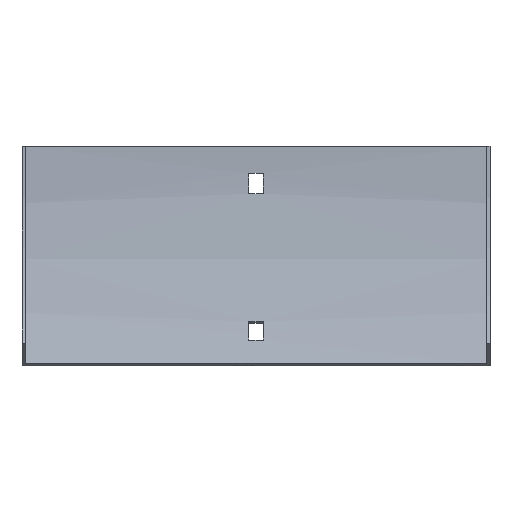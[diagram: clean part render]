
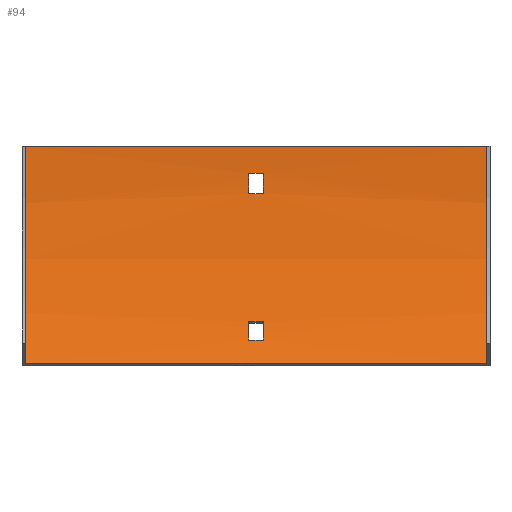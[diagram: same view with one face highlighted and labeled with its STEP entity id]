
A CAD part, front view. The second image highlights one B-rep face of the part: STEP entity #94.
In plain terms, the highlighted cylindrical face has radius 192.5 mm (diameter 385 mm), a partial arc.
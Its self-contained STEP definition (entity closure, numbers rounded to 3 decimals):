
#2 = ORIENTED_EDGE ( 'NONE', *, *, #241, .F. ) ;
#9 = CARTESIAN_POINT ( 'NONE',  ( -3.25, -21.614, -85.671 ) ) ;
#13 = AXIS2_PLACEMENT_3D ( 'NONE', #129, #88, #217 ) ;
#17 = DIRECTION ( 'NONE',  ( -1., 0., 0. ) ) ;
#22 = CARTESIAN_POINT ( 'NONE',  ( 3.25, -194., 0. ) ) ;
#33 = VERTEX_POINT ( 'NONE', #528 ) ;
#35 = LINE ( 'NONE', #406, #438 ) ;
#38 = ORIENTED_EDGE ( 'NONE', *, *, #370, .F. ) ;
#44 = CARTESIAN_POINT ( 'NONE',  ( -3.25, -194., 0. ) ) ;
#63 = CARTESIAN_POINT ( 'NONE',  ( -102., -194., 0. ) ) ;
#69 = FACE_BOUND ( 'NONE', #489, .T. ) ;
#70 = CARTESIAN_POINT ( 'NONE',  ( 3.25, -2.649, -21. ) ) ;
#72 = EDGE_CURVE ( 'NONE', #539, #465, #150, .T. ) ;
#79 = ORIENTED_EDGE ( 'NONE', *, *, #142, .F. ) ;
#86 = DIRECTION ( 'NONE',  ( 1., 0., 0. ) ) ;
#88 = DIRECTION ( 'NONE',  ( -1., 0., 0. ) ) ;
#91 = CARTESIAN_POINT ( 'NONE',  ( 102., -1.5, 0. ) ) ;
#93 = DIRECTION ( 'NONE',  ( 1., 0., 0. ) ) ;
#94 = ADVANCED_FACE ( 'NONE', ( #69, #260, #488 ), #177, .F. ) ;
#108 = VECTOR ( 'NONE', #537, 1000. ) ;
#109 = CIRCLE ( 'NONE', #292, 192.5 ) ;
#123 = VECTOR ( 'NONE', #415, 1000. ) ;
#129 = CARTESIAN_POINT ( 'NONE',  ( 3.25, -194., 0. ) ) ;
#134 = VERTEX_POINT ( 'NONE', #401 ) ;
#136 = DIRECTION ( 'NONE',  ( 0., 0., -1. ) ) ;
#142 = EDGE_CURVE ( 'NONE', #465, #317, #592, .T. ) ;
#150 = CIRCLE ( 'NONE', #303, 192.5 ) ;
#155 = CARTESIAN_POINT ( 'NONE',  ( 3.25, -21.614, -85.671 ) ) ;
#159 = AXIS2_PLACEMENT_3D ( 'NONE', #44, #93, #136 ) ;
#163 = CARTESIAN_POINT ( 'NONE',  ( 102., -1.5, 0. ) ) ;
#171 = LINE ( 'NONE', #529, #428 ) ;
#177 = CYLINDRICAL_SURFACE ( 'NONE', #282, 192.5 ) ;
#180 = DIRECTION ( 'NONE',  ( -1., 0., 0. ) ) ;
#182 = VERTEX_POINT ( 'NONE', #155 ) ;
#189 = EDGE_CURVE ( 'NONE', #182, #307, #171, .T. ) ;
#197 = ORIENTED_EDGE ( 'NONE', *, *, #189, .T. ) ;
#199 = CARTESIAN_POINT ( 'NONE',  ( -3.25, -1.874, -12. ) ) ;
#213 = CARTESIAN_POINT ( 'NONE',  ( 103.5, -194., 0. ) ) ;
#217 = DIRECTION ( 'NONE',  ( 0., 0., 1. ) ) ;
#226 = CARTESIAN_POINT ( 'NONE',  ( 103.5, -17.785, -77.489 ) ) ;
#233 = CIRCLE ( 'NONE', #159, 192.5 ) ;
#241 = EDGE_CURVE ( 'NONE', #503, #33, #35, .T. ) ;
#252 = CARTESIAN_POINT ( 'NONE',  ( -3.25, -2.649, -21. ) ) ;
#253 = CARTESIAN_POINT ( 'NONE',  ( 3.25, -1.874, -12. ) ) ;
#255 = DIRECTION ( 'NONE',  ( -1., 0., 0. ) ) ;
#258 = EDGE_LOOP ( 'NONE', ( #197, #582, #566, #547 ) ) ;
#260 = FACE_OUTER_BOUND ( 'NONE', #280, .T. ) ;
#265 = CARTESIAN_POINT ( 'NONE',  ( -3.25, -194., 0. ) ) ;
#267 = DIRECTION ( 'NONE',  ( 0., 0., -1. ) ) ;
#279 = CARTESIAN_POINT ( 'NONE',  ( 102., -27.29, -96.25 ) ) ;
#280 = EDGE_LOOP ( 'NONE', ( #550, #2, #386, #399 ) ) ;
#282 = AXIS2_PLACEMENT_3D ( 'NONE', #213, #255, #441 ) ;
#292 = AXIS2_PLACEMENT_3D ( 'NONE', #265, #590, #319 ) ;
#302 = VERTEX_POINT ( 'NONE', #512 ) ;
#303 = AXIS2_PLACEMENT_3D ( 'NONE', #22, #491, #267 ) ;
#307 = VERTEX_POINT ( 'NONE', #9 ) ;
#317 = VERTEX_POINT ( 'NONE', #199 ) ;
#319 = DIRECTION ( 'NONE',  ( 0., 0., 1. ) ) ;
#321 = CARTESIAN_POINT ( 'NONE',  ( -102., -1.5, 0. ) ) ;
#325 = EDGE_CURVE ( 'NONE', #33, #396, #518, .T. ) ;
#331 = ORIENTED_EDGE ( 'NONE', *, *, #72, .F. ) ;
#362 = DIRECTION ( 'NONE',  ( 0., 0., 1. ) ) ;
#370 = EDGE_CURVE ( 'NONE', #317, #559, #109, .T. ) ;
#386 = ORIENTED_EDGE ( 'NONE', *, *, #564, .T. ) ;
#387 = EDGE_CURVE ( 'NONE', #134, #302, #597, .T. ) ;
#388 = DIRECTION ( 'NONE',  ( 0., 0., 1. ) ) ;
#396 = VERTEX_POINT ( 'NONE', #321 ) ;
#397 = EDGE_CURVE ( 'NONE', #307, #134, #233, .T. ) ;
#399 = ORIENTED_EDGE ( 'NONE', *, *, #442, .T. ) ;
#401 = CARTESIAN_POINT ( 'NONE',  ( -3.25, -17.785, -77.489 ) ) ;
#406 = CARTESIAN_POINT ( 'NONE',  ( 102., -27.29, -96.25 ) ) ;
#414 = LINE ( 'NONE', #91, #123 ) ;
#415 = DIRECTION ( 'NONE',  ( -1., 0., 0. ) ) ;
#420 = ORIENTED_EDGE ( 'NONE', *, *, #422, .F. ) ;
#422 = EDGE_CURVE ( 'NONE', #559, #539, #460, .T. ) ;
#428 = VECTOR ( 'NONE', #17, 1000. ) ;
#437 = DIRECTION ( 'NONE',  ( 1., 0., 0. ) ) ;
#438 = VECTOR ( 'NONE', #180, 1000. ) ;
#441 = DIRECTION ( 'NONE',  ( 0., 0., 1. ) ) ;
#442 = EDGE_CURVE ( 'NONE', #568, #396, #414, .T. ) ;
#460 = LINE ( 'NONE', #504, #580 ) ;
#465 = VERTEX_POINT ( 'NONE', #253 ) ;
#488 = FACE_BOUND ( 'NONE', #258, .T. ) ;
#489 = EDGE_LOOP ( 'NONE', ( #38, #79, #331, #420 ) ) ;
#491 = DIRECTION ( 'NONE',  ( 1., 0., 0. ) ) ;
#497 = DIRECTION ( 'NONE',  ( 1., 0., 0. ) ) ;
#500 = VECTOR ( 'NONE', #86, 1000. ) ;
#503 = VERTEX_POINT ( 'NONE', #279 ) ;
#504 = CARTESIAN_POINT ( 'NONE',  ( 103.5, -2.649, -21. ) ) ;
#508 = AXIS2_PLACEMENT_3D ( 'NONE', #63, #516, #388 ) ;
#512 = CARTESIAN_POINT ( 'NONE',  ( 3.25, -17.785, -77.489 ) ) ;
#516 = DIRECTION ( 'NONE',  ( 1., 0., 0. ) ) ;
#518 = CIRCLE ( 'NONE', #508, 192.5 ) ;
#519 = CIRCLE ( 'NONE', #13, 192.5 ) ;
#524 = EDGE_CURVE ( 'NONE', #302, #182, #519, .T. ) ;
#528 = CARTESIAN_POINT ( 'NONE',  ( -102., -27.29, -96.25 ) ) ;
#529 = CARTESIAN_POINT ( 'NONE',  ( 103.5, -21.614, -85.671 ) ) ;
#531 = AXIS2_PLACEMENT_3D ( 'NONE', #584, #437, #362 ) ;
#537 = DIRECTION ( 'NONE',  ( -1., 0., 0. ) ) ;
#539 = VERTEX_POINT ( 'NONE', #70 ) ;
#545 = CARTESIAN_POINT ( 'NONE',  ( 103.5, -1.874, -12. ) ) ;
#547 = ORIENTED_EDGE ( 'NONE', *, *, #524, .T. ) ;
#550 = ORIENTED_EDGE ( 'NONE', *, *, #325, .F. ) ;
#559 = VERTEX_POINT ( 'NONE', #252 ) ;
#564 = EDGE_CURVE ( 'NONE', #503, #568, #596, .T. ) ;
#566 = ORIENTED_EDGE ( 'NONE', *, *, #387, .T. ) ;
#568 = VERTEX_POINT ( 'NONE', #163 ) ;
#580 = VECTOR ( 'NONE', #497, 1000. ) ;
#582 = ORIENTED_EDGE ( 'NONE', *, *, #397, .T. ) ;
#584 = CARTESIAN_POINT ( 'NONE',  ( 102., -194., 0. ) ) ;
#590 = DIRECTION ( 'NONE',  ( -1., 0., 0. ) ) ;
#592 = LINE ( 'NONE', #545, #108 ) ;
#596 = CIRCLE ( 'NONE', #531, 192.5 ) ;
#597 = LINE ( 'NONE', #226, #500 ) ;
